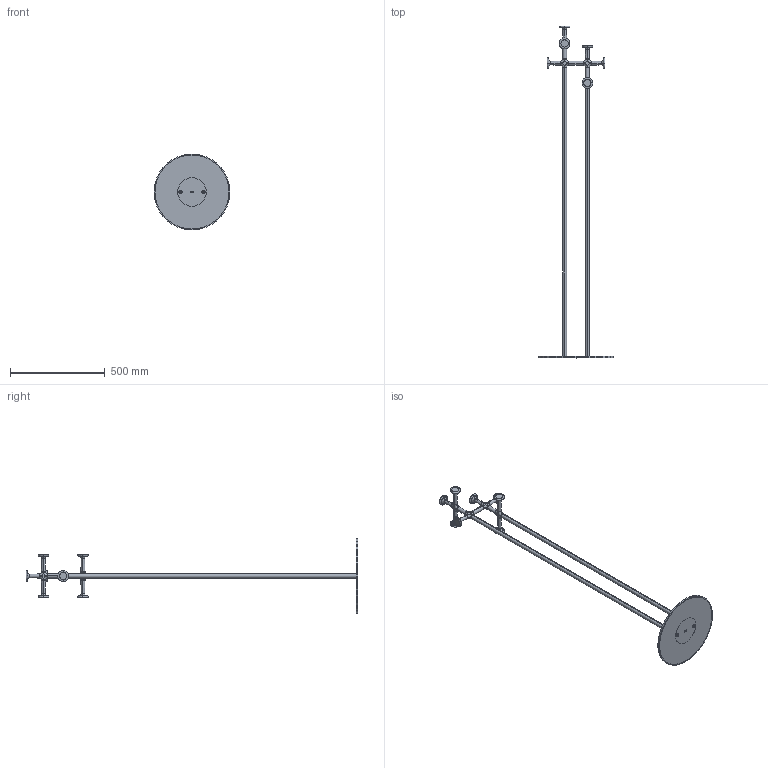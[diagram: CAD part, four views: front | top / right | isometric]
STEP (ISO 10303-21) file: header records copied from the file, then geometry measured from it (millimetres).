
FILE_DESCRIPTION (( 'STEP AP214' ), '1' );
FILE_NAME ('Afteroom Coat Stand 3d.STEP', '2026-01-16T09:07:45', ( '' ), ( '' ), 'SwSTEP 2.0', 'SolidWorks 2024', '' );
FILE_SCHEMA (( 'AUTOMOTIVE_DESIGN' ));
Length unit declared in the file: millimetre
Products named in the file (1): Afteroom Coat Stand 3d
Bounding box: 400 x 1750 x 400 mm (x, y, z)
Volume: 1844800.2 mm3; surface area: 999744.4 mm2
Topology: 27 solids, 27 shells, 1289 faces, 3502 edges, 2276 vertices
Faces by surface type: cylinder 914, plane 139, bspline 107, torus 96, cone 33
Entity records: 130018 total; most frequent: CARTESIAN_POINT 100623, ORIENTED_EDGE 6972, DIRECTION 4665, EDGE_CURVE 3486, VERTEX_POINT 2276, AXIS2_PLACEMENT_3D 1814, B_SPLINE_CURVE_WITH_KNOTS 1810, EDGE_LOOP 1370
